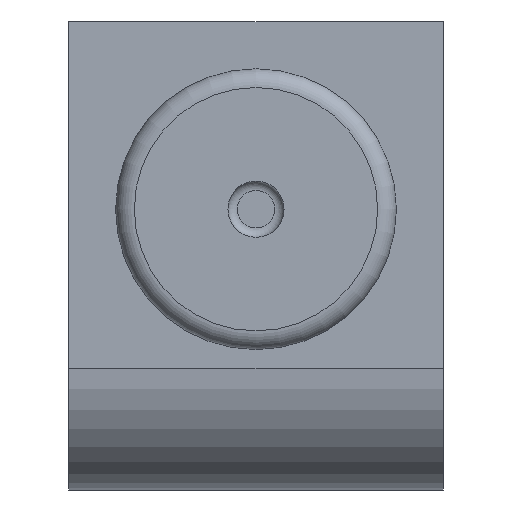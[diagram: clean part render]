
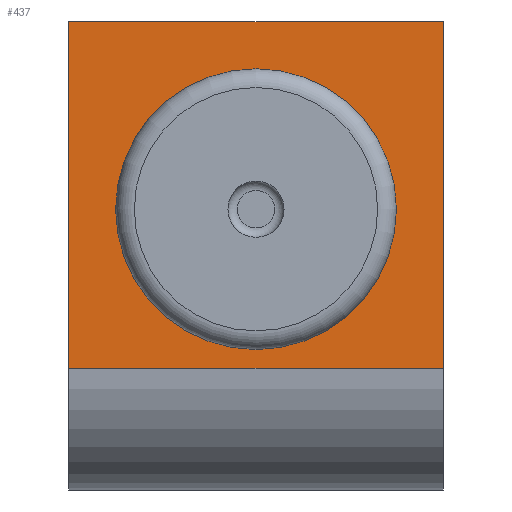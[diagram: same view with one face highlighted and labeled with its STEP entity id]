
A CAD part, left-side view. The second image highlights one B-rep face of the part: STEP entity #437.
In plain terms, the highlighted planar face has unit normal (-1, 0, 0).
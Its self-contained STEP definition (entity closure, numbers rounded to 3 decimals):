
#40=LINE('',#687,#64);
#52=LINE('',#723,#76);
#54=LINE('',#727,#78);
#56=LINE('',#730,#80);
#64=VECTOR('',#545,40.);
#76=VECTOR('',#583,37.);
#78=VECTOR('',#587,40.);
#80=VECTOR('',#591,37.);
#92=PLANE('',#481);
#106=FACE_BOUND('',#174,.T.);
#134=FACE_OUTER_BOUND('',#173,.T.);
#173=EDGE_LOOP('',(#375,#376,#377,#378));
#174=EDGE_LOOP('',(#379));
#201=CIRCLE('',#457,11.);
#226=VERTEX_POINT('',#662);
#229=VERTEX_POINT('',#668);
#234=VERTEX_POINT('',#679);
#245=VERTEX_POINT('',#722);
#246=VERTEX_POINT('',#726);
#263=EDGE_CURVE('',#226,#226,#201,.T.);
#275=EDGE_CURVE('',#234,#229,#40,.T.);
#291=EDGE_CURVE('',#245,#234,#52,.T.);
#293=EDGE_CURVE('',#246,#245,#54,.T.);
#295=EDGE_CURVE('',#229,#246,#56,.T.);
#375=ORIENTED_EDGE('',*,*,#275,.T.);
#376=ORIENTED_EDGE('',*,*,#295,.T.);
#377=ORIENTED_EDGE('',*,*,#293,.T.);
#378=ORIENTED_EDGE('',*,*,#291,.T.);
#379=ORIENTED_EDGE('',*,*,#263,.T.);
#437=ADVANCED_FACE('',(#134,#106),#92,.F.);
#457=AXIS2_PLACEMENT_3D('',#663,#520,#521);
#481=AXIS2_PLACEMENT_3D('',#731,#592,#593);
#520=DIRECTION('center_axis',(1.,0.,0.));
#521=DIRECTION('ref_axis',(0.,0.,-1.));
#545=DIRECTION('',(0.,-1.,0.));
#583=DIRECTION('',(0.,0.,-1.));
#587=DIRECTION('',(0.,1.,0.));
#591=DIRECTION('',(0.,0.,1.));
#592=DIRECTION('center_axis',(1.,0.,0.));
#593=DIRECTION('ref_axis',(0.,0.,-1.));
#662=CARTESIAN_POINT('',(-21.5,0.,19.));
#663=CARTESIAN_POINT('Origin',(-21.5,0.,30.));
#668=CARTESIAN_POINT('',(-21.5,-20.,13.));
#679=CARTESIAN_POINT('',(-21.5,20.,13.));
#687=CARTESIAN_POINT('',(-21.5,-10.,13.));
#722=CARTESIAN_POINT('',(-21.5,20.,50.));
#723=CARTESIAN_POINT('',(-21.5,20.,50.));
#726=CARTESIAN_POINT('',(-21.5,-20.,50.));
#727=CARTESIAN_POINT('',(-21.5,-20.,50.));
#730=CARTESIAN_POINT('',(-21.5,-20.,-67.));
#731=CARTESIAN_POINT('Origin',(-21.5,0.,-8.5));
